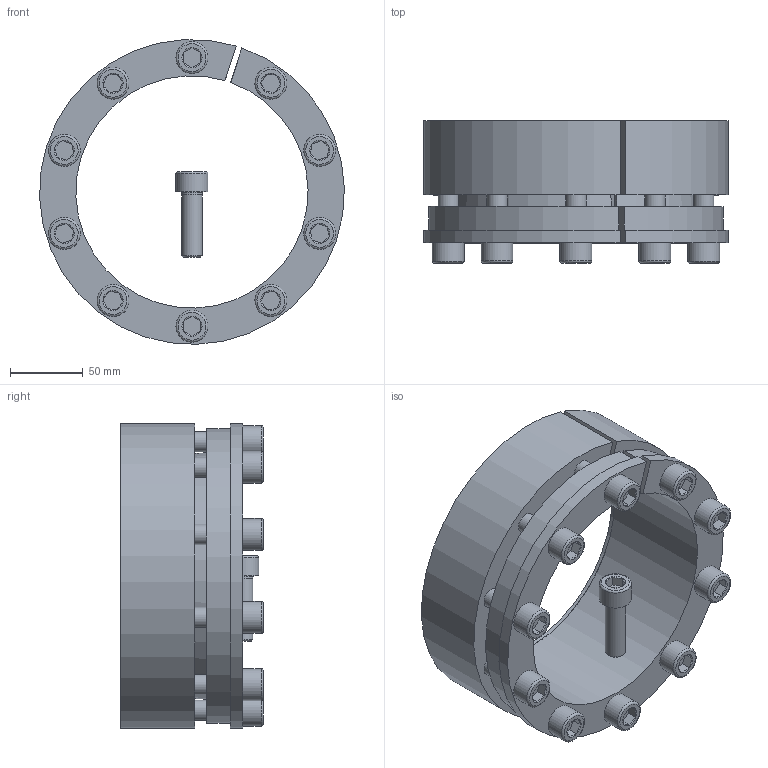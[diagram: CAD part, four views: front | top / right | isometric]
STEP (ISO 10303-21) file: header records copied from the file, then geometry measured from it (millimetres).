
FILE_DESCRIPTION( ( 'Unknown' ), '1' );
FILE_NAME( 'C:/Dokumente und Einstellungen/Sven/Desktop/homepage/cad - homepage/KBS70/KBS 70 - 160 x 210.stp', 'Unknown', ( 'Unknown' ), ( 'Unknown' ), 'XStep 1.0', 'Unknown', ' ' );
FILE_SCHEMA( ( 'automotive_design' ) );
Length unit declared in the file: millimetre
Products named in the file (3): Assem1; KBS 70 - 160 x 210; ISO EN DIN 4762 M14x45
Bounding box: 209.88 x 98 x 209.8 mm (x, y, z)
Volume: 2045391.2 mm3; surface area: 403155.7 mm2
Topology: 13 solids, 13 shells, 343 faces, 703 edges, 430 vertices
Faces by surface type: plane 148, cylinder 92, cone 81, torus 22
Full cylindrical faces by diameter (mm): 12 x11, 14 x62, 22 x11
Entity records: 2002 total; most frequent: CARTESIAN_POINT 339, DIRECTION 312, ORIENTED_EDGE 222, AXIS2_PLACEMENT_3D 140, EDGE_LOOP 130, EDGE_CURVE 111, VERTEX_POINT 87, FACE_OUTER_BOUND 85
